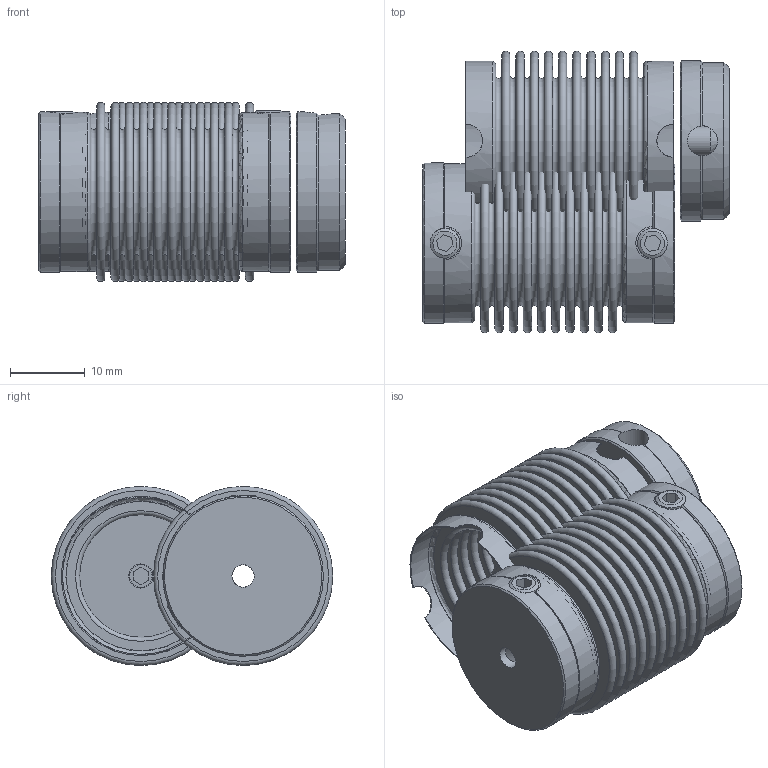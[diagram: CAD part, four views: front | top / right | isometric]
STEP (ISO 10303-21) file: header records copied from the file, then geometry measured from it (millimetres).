
FILE_DESCRIPTION( ( 'Unknown' ), '1' );
FILE_NAME( 'C:/Dokumente und Einstellungen/Sven/Desktop/cad - homepage/KB1/KB1-20-32.stp', 'Unknown', ( 'Unknown' ), ( 'Unknown' ), 'XStep 1.0', 'Unknown', ' ' );
FILE_SCHEMA( ( 'automotive_design' ) );
Length unit declared in the file: millimetre
Products named in the file (4): Assem1; Socket Set Screw Cup Point_DIN_DIN 916 - M4 x 5-N; MN20_Standard_1; BL20 - ausgeklinkt_Standard
Bounding box: 41.11 x 37.7 x 24 mm (x, y, z)
Volume: 8180.1 mm3; surface area: 28890.9 mm2
Topology: 10 solids, 10 shells, 303 faces, 610 edges, 399 vertices
Faces by surface type: plane 148, torus 92, cylinder 36, cone 27
Full cylindrical faces by diameter (mm): 3 x3, 4 x11, 21 x7, 21.3 x4, 21.5 x3
Entity records: 3397 total; most frequent: CARTESIAN_POINT 881, DIRECTION 532, ORIENTED_EDGE 330, AXIS2_PLACEMENT_3D 252, EDGE_LOOP 235, FACE_OUTER_BOUND 183, EDGE_CURVE 165, VERTEX_POINT 145
